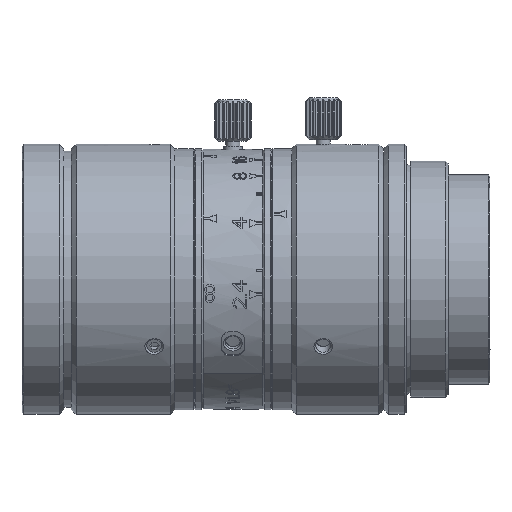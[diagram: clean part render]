
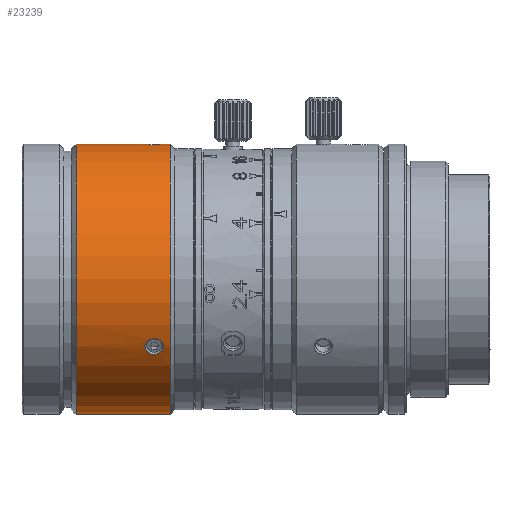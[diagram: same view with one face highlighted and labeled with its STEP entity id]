
A CAD part, top view. The second image highlights one B-rep face of the part: STEP entity #23239.
In plain terms, the highlighted cylindrical face has radius 14.5 mm (diameter 29 mm), a partial arc.
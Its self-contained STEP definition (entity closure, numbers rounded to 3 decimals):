
#3083=CARTESIAN_POINT('',(-44.123,14.5,0.));
#3096=CARTESIAN_POINT('',(-46.123,14.5,0.));
#3098=DIRECTION('',(-1.,0.,0.));
#3099=VECTOR('',#3098,7.4);
#3100=CARTESIAN_POINT('',(-46.123,14.5,0.));
#3101=LINE('',#3100,#3099);
#3102=DIRECTION('',(-1.,0.,0.));
#3103=VECTOR('',#3102,0.7);
#3104=CARTESIAN_POINT('',(-43.423,14.5,0.));
#3105=LINE('',#3104,#3103);
#3170=CARTESIAN_POINT('',(-46.123,14.5,0.));
#3171=CARTESIAN_POINT('',(-46.123,14.5,0.093));
#3172=CARTESIAN_POINT('',(-46.097,14.498,
0.27));
#3173=CARTESIAN_POINT('',(-45.982,14.491,
0.521));
#3174=CARTESIAN_POINT('',(-45.796,14.482,
0.733));
#3175=CARTESIAN_POINT('',(-45.555,14.473,
0.888));
#3176=CARTESIAN_POINT('',(-45.273,14.467,
0.971));
#3177=CARTESIAN_POINT('',(-44.982,14.467,
0.972));
#3178=CARTESIAN_POINT('',(-44.699,14.473,
0.891));
#3179=CARTESIAN_POINT('',(-44.455,14.482,
0.737));
#3180=CARTESIAN_POINT('',(-44.267,14.491,
0.525));
#3181=CARTESIAN_POINT('',(-44.15,14.498,
0.272));
#3182=CARTESIAN_POINT('',(-44.123,14.5,0.093));
#3183=CARTESIAN_POINT('',(-44.123,14.5,0.));
#3185=DIRECTION('',(-1.,0.,0.));
#3186=VECTOR('',#3185,10.1);
#3187=CARTESIAN_POINT('',(-43.423,-14.5,0.));
#3188=LINE('',#3187,#3186);
#3189=CARTESIAN_POINT('',(-44.123,-7.25,12.557));
#3190=CARTESIAN_POINT('',(-44.123,-7.17,12.604));
#3191=CARTESIAN_POINT('',(-44.15,-7.015,
12.691));
#3192=CARTESIAN_POINT('',(-44.265,-6.794,
12.81));
#3193=CARTESIAN_POINT('',(-44.45,-6.606,
12.908));
#3194=CARTESIAN_POINT('',(-44.692,-6.467,
12.978));
#3195=CARTESIAN_POINT('',(-44.973,-6.393,
13.014));
#3196=CARTESIAN_POINT('',(-45.264,-6.392,
13.015));
#3197=CARTESIAN_POINT('',(-45.548,-6.465,
12.979));
#3198=CARTESIAN_POINT('',(-45.792,-6.602,
12.91));
#3199=CARTESIAN_POINT('',(-45.98,-6.791,
12.812));
#3200=CARTESIAN_POINT('',(-46.096,-7.013,
12.692));
#3201=CARTESIAN_POINT('',(-46.123,-7.169,12.604));
#3202=CARTESIAN_POINT('',(-46.123,-7.25,12.557));
#3204=CARTESIAN_POINT('',(-46.123,-7.25,12.557));
#3205=CARTESIAN_POINT('',(-46.123,-7.33,12.511));
#3206=CARTESIAN_POINT('',(-46.097,-7.483,
12.421));
#3207=CARTESIAN_POINT('',(-45.982,-7.697,
12.289));
#3208=CARTESIAN_POINT('',(-45.796,-7.876,
12.175));
#3209=CARTESIAN_POINT('',(-45.555,-8.005,
12.09));
#3210=CARTESIAN_POINT('',(-45.273,-8.074,
12.044));
#3211=CARTESIAN_POINT('',(-44.982,-8.075,
12.043));
#3212=CARTESIAN_POINT('',(-44.699,-8.008,
12.088));
#3213=CARTESIAN_POINT('',(-44.455,-7.879,
12.173));
#3214=CARTESIAN_POINT('',(-44.267,-7.7,
12.287));
#3215=CARTESIAN_POINT('',(-44.15,-7.485,
12.42));
#3216=CARTESIAN_POINT('',(-44.123,-7.331,12.511));
#3217=CARTESIAN_POINT('',(-44.123,-7.25,12.557));
#3228=CARTESIAN_POINT('',(-43.423,0.,0.));
#3229=DIRECTION('',(-1.,0.,0.));
#3230=DIRECTION('',(0.,-1.,0.));
#3231=AXIS2_PLACEMENT_3D('',#3228,#3229,#3230);
#3233=CARTESIAN_POINT('',(-53.523,0.,0.));
#3234=DIRECTION('',(1.,0.,0.));
#3235=DIRECTION('',(0.,1.,0.));
#3236=AXIS2_PLACEMENT_3D('',#3233,#3234,#3235);
#19451=CARTESIAN_POINT('',(-43.423,14.5,0.));
#19452=CARTESIAN_POINT('',(-43.423,-14.5,0.));
#19453=VERTEX_POINT('',#19451);
#19454=VERTEX_POINT('',#19452);
#19455=VERTEX_POINT('',#3083);
#19456=VERTEX_POINT('',#3096);
#19457=CARTESIAN_POINT('',(-53.523,14.5,0.));
#19458=VERTEX_POINT('',#19457);
#19459=CARTESIAN_POINT('',(-53.523,-14.5,0.));
#19460=VERTEX_POINT('',#19459);
#19501=VERTEX_POINT('',#3189);
#19502=VERTEX_POINT('',#3202);
#23218=CARTESIAN_POINT('',(-60.248,0.,0.));
#23219=DIRECTION('',(1.,0.,0.));
#23220=DIRECTION('',(0.,-1.,0.));
#23221=AXIS2_PLACEMENT_3D('',#23218,#23219,#23220);
#23222=CYLINDRICAL_SURFACE('',#23221,14.5);
#23223=ORIENTED_EDGE('',*,*,#23212,.T.);
#23224=ORIENTED_EDGE('',*,*,#23154,.F.);
#23226=ORIENTED_EDGE('',*,*,#23225,.F.);
#23227=ORIENTED_EDGE('',*,*,#23151,.T.);
#23229=ORIENTED_EDGE('',*,*,#23228,.F.);
#23230=ORIENTED_EDGE('',*,*,#23147,.F.);
#23231=EDGE_LOOP('',(#23223,#23224,#23226,#23227,#23229,#23230));
#23232=FACE_OUTER_BOUND('',#23231,.F.);
#23234=ORIENTED_EDGE('',*,*,#23233,.T.);
#23236=ORIENTED_EDGE('',*,*,#23235,.T.);
#23237=EDGE_LOOP('',(#23234,#23236));
#23238=FACE_BOUND('',#23237,.F.);
#23239=ADVANCED_FACE('',(#23232,#23238),#23222,.T.);
#3184=B_SPLINE_CURVE_WITH_KNOTS('',3,(#3170,#3171,#3172,#3173,#3174,#3175,#3176,
#3177,#3178,#3179,#3180,#3181,#3182,#3183),.UNSPECIFIED.,.F.,.F.,(4,1,1,1,1,1,1,
1,1,1,1,4),(0.,0.091,0.182,0.273,
0.364,0.455,0.545,0.636,
0.727,0.818,0.909,1.),.UNSPECIFIED.);
#3203=B_SPLINE_CURVE_WITH_KNOTS('',3,(#3189,#3190,#3191,#3192,#3193,#3194,#3195,
#3196,#3197,#3198,#3199,#3200,#3201,#3202),.UNSPECIFIED.,.F.,.F.,(4,1,1,1,1,1,1,
1,1,1,1,4),(0.,0.091,0.182,0.273,
0.364,0.455,0.545,0.636,
0.727,0.818,0.909,1.),.UNSPECIFIED.);
#3218=B_SPLINE_CURVE_WITH_KNOTS('',3,(#3204,#3205,#3206,#3207,#3208,#3209,#3210,
#3211,#3212,#3213,#3214,#3215,#3216,#3217),.UNSPECIFIED.,.F.,.F.,(4,1,1,1,1,1,1,
1,1,1,1,4),(0.,0.091,0.182,0.273,
0.364,0.455,0.545,0.636,
0.727,0.818,0.909,1.),.UNSPECIFIED.);
#3232=CIRCLE('',#3231,14.5);
#3237=CIRCLE('',#3236,14.5);
#23147=EDGE_CURVE('',#19456,#19458,#3101,.T.);
#23151=EDGE_CURVE('',#19454,#19460,#3188,.T.);
#23154=EDGE_CURVE('',#19453,#19455,#3105,.T.);
#23212=EDGE_CURVE('',#19456,#19455,#3184,.T.);
#23225=EDGE_CURVE('',#19454,#19453,#3232,.T.);
#23228=EDGE_CURVE('',#19458,#19460,#3237,.T.);
#23233=EDGE_CURVE('',#19501,#19502,#3203,.T.);
#23235=EDGE_CURVE('',#19502,#19501,#3218,.T.);
